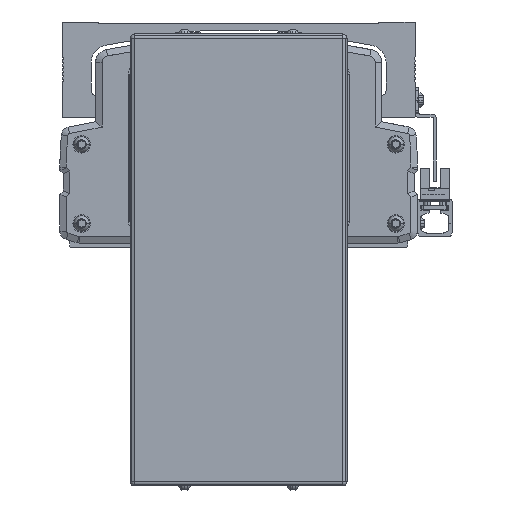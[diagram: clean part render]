
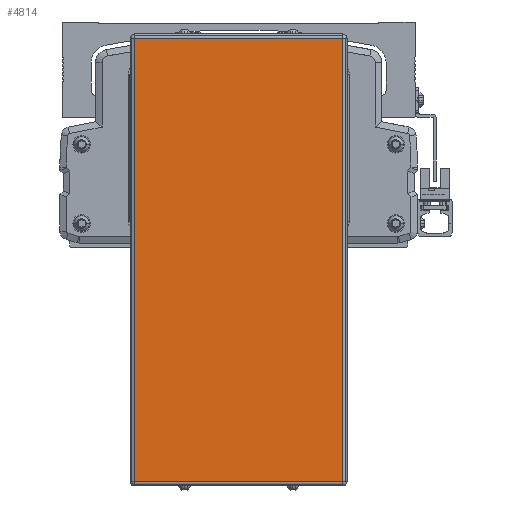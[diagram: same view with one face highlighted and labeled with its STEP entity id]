
A CAD part, front view. The second image highlights one B-rep face of the part: STEP entity #4814.
In plain terms, the highlighted planar face has unit normal (0, -1, 0).
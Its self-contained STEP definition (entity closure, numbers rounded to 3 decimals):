
#4814=ADVANCED_FACE('',(#11487),#11488,.T.);
#11487=FACE_OUTER_BOUND('',#20965,.T.);
#11488=PLANE('',#20966);
#20965=EDGE_LOOP('',(#36751,#36752,#36753,#36754));
#20966=AXIS2_PLACEMENT_3D('',#36755,#36756,#36757);
#36751=ORIENTED_EDGE('',*,*,#58938,.F.);
#36752=ORIENTED_EDGE('',*,*,#54489,.F.);
#36753=ORIENTED_EDGE('',*,*,#58939,.F.);
#36754=ORIENTED_EDGE('',*,*,#58940,.F.);
#36755=CARTESIAN_POINT('',(-600.,-222.778,-57.8));
#36756=DIRECTION('',(0.,-1.0,0.));
#36757=DIRECTION('',(0.,0.,-1.0));
#54489=EDGE_CURVE('',#64814,#64816,#64817,.T.);
#58938=EDGE_CURVE('',#64816,#72316,#72317,.T.);
#58939=EDGE_CURVE('',#66059,#64814,#72318,.T.);
#58940=EDGE_CURVE('',#72316,#66059,#72319,.T.);
#64814=VERTEX_POINT('',#79953);
#64816=VERTEX_POINT('',#79955);
#64817=LINE('',#79956,#79957);
#66059=VERTEX_POINT('',#81744);
#72316=VERTEX_POINT('',#90630);
#72317=LINE('',#90631,#90632);
#72318=LINE('',#90633,#90634);
#72319=LINE('',#90635,#90636);
#79953=CARTESIAN_POINT('',(-648.,-222.778,-160.1));
#79955=CARTESIAN_POINT('',(-648.,-222.778,44.5));
#79956=CARTESIAN_POINT('',(-648.,-222.778,-57.8));
#79957=VECTOR('',#100983,10.0);
#81744=CARTESIAN_POINT('',(-552.,-222.778,-160.1));
#90630=CARTESIAN_POINT('',(-552.,-222.778,44.5));
#90631=CARTESIAN_POINT('',(-600.,-222.778,44.5));
#90632=VECTOR('',#106845,10.0);
#90633=CARTESIAN_POINT('',(-600.,-222.778,-160.1));
#90634=VECTOR('',#106846,10.0);
#90635=CARTESIAN_POINT('',(-552.,-222.778,-57.8));
#90636=VECTOR('',#106847,10.0);
#100983=DIRECTION('',(0.,0.,1.0));
#106845=DIRECTION('',(1.0,0.,0.));
#106846=DIRECTION('',(-1.0,0.,0.));
#106847=DIRECTION('',(0.,0.,-1.0));
